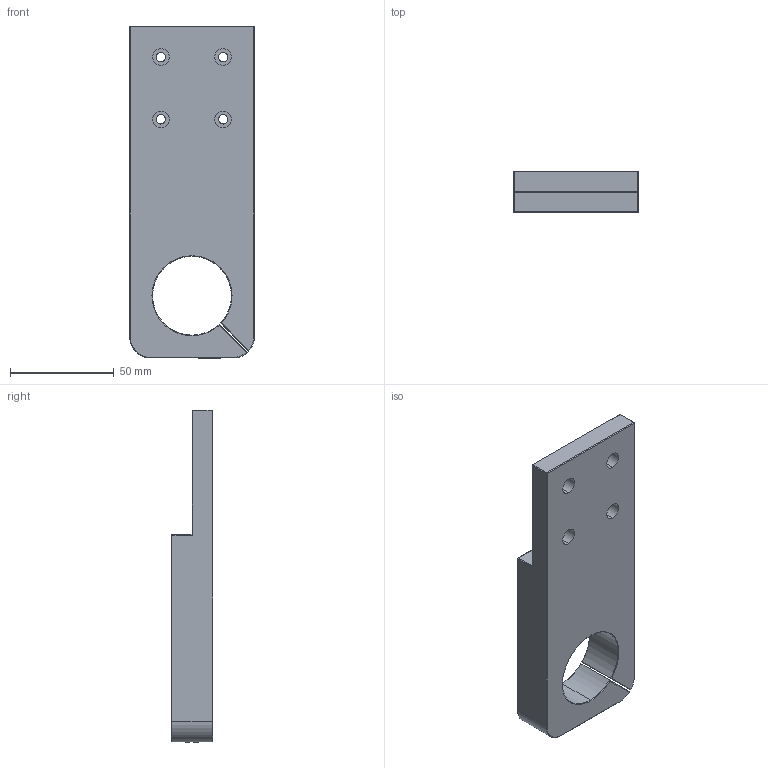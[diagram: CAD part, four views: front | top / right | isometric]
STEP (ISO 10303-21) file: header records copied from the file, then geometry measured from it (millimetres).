
FILE_DESCRIPTION (( 'STEP AP214' ), '1' );
FILE_NAME ('標厥啣.STEP', '2026-09-01T01:33:36', ( '' ), ( '' ), 'SwSTEP 2.0', 'SolidWorks 2024', '' );
FILE_SCHEMA (( 'AUTOMOTIVE_DESIGN' ));
Length unit declared in the file: millimetre
Products named in the file (1): 夹持板
Bounding box: 60 x 20 x 160 mm (x, y, z)
Volume: 128941.8 mm3; surface area: 28393.7 mm2
Topology: 1 solids, 1 shells, 80 faces, 183 edges, 110 vertices
Faces by surface type: plane 40, cylinder 28, cone 12
Entity records: 2282 total; most frequent: CARTESIAN_POINT 410, DIRECTION 401, ORIENTED_EDGE 366, EDGE_CURVE 183, AXIS2_PLACEMENT_3D 149, VERTEX_POINT 110, LINE 103, VECTOR 103
